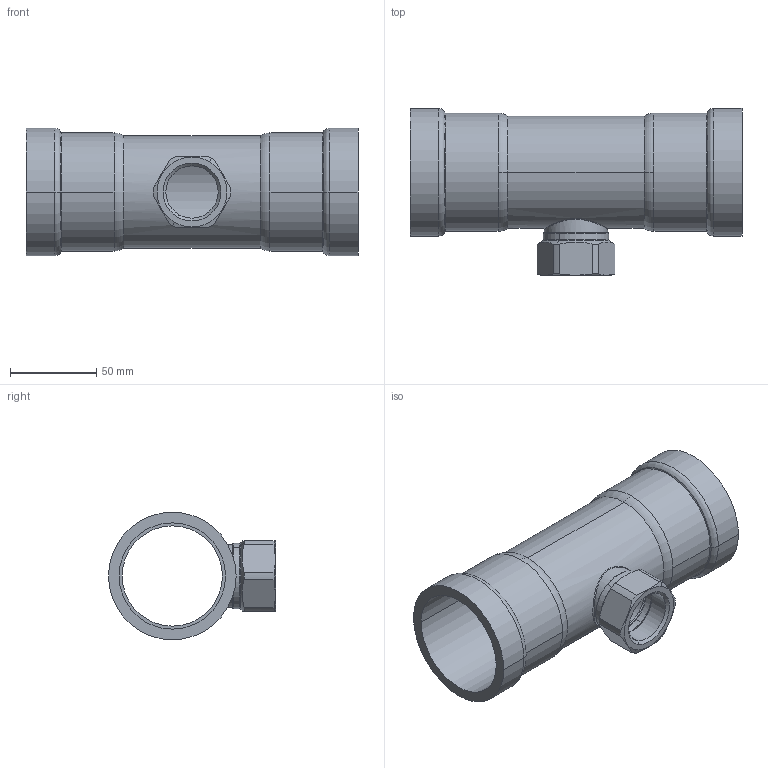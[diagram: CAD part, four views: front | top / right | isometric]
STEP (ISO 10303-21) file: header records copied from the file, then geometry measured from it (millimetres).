
FILE_DESCRIPTION(('Creo Elements/Direct Modeling STEP Export'),'2;1');
FILE_NAME('C9418_2_Rp1_2.stp','2020-07-17T 9:42:06',(''),(''),'PTC Creo Elements/Direct Modeling STEP processor for AP214 (Solid Model)','PTC Creo Elements/Direct Modeling 19.0C 15-Aug-2015 (C) Parametric Technology GmbH','');
FILE_SCHEMA(('AUTOMOTIVE_DESIGN { 1 0 10303 214 1 1 1 1 }'));
Length unit declared in the file: millimetre
Products named in the file (2): C9418_2_Rp1_2
Assembly tree (1 placements, depth 2):
  C9418_2_Rp1_2
    C9418_2_Rp1_2
Bounding box: 192.02 x 96.6 x 73.8 mm (x, y, z)
Volume: 168778.8 mm3; surface area: 87196.6 mm2
Topology: 1 solids, 1 shells, 78 faces, 203 edges, 131 vertices
Faces by surface type: cylinder 32, cone 16, torus 14, plane 12, bspline 4
Entity records: 6501 total; most frequent: CARTESIAN_POINT 4714, ORIENTED_EDGE 406, DIRECTION 328, EDGE_CURVE 203, AXIS2_PLACEMENT_3D 137, VERTEX_POINT 131, EDGE_LOOP 86, FACE_OUTER_BOUND 78
